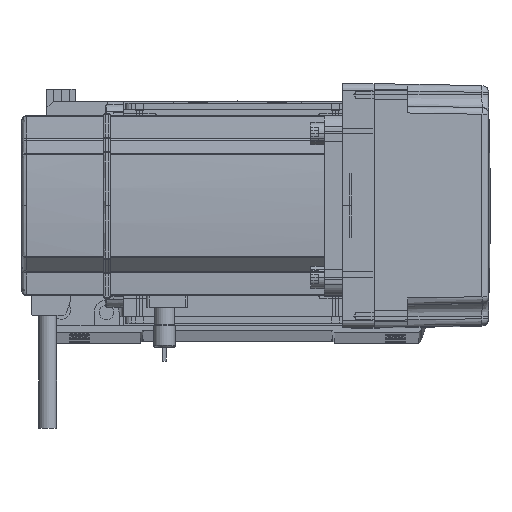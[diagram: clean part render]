
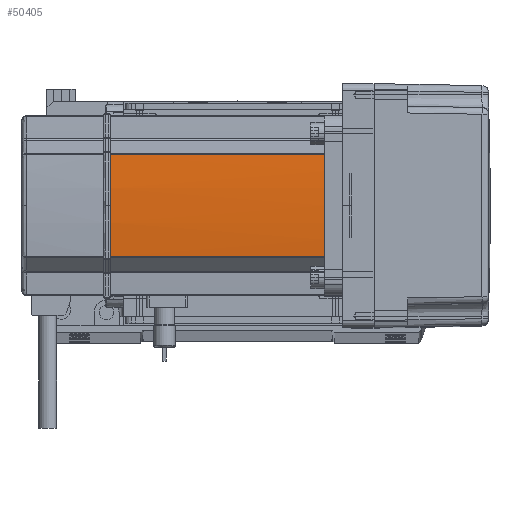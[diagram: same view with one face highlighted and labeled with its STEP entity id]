
A CAD part, top view. The second image highlights one B-rep face of the part: STEP entity #50405.
In plain terms, the highlighted cylindrical face has radius 270 mm (diameter 540 mm), a partial arc.
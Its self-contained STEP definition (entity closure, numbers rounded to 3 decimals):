
#1055 = FACE_OUTER_BOUND ( 'NONE', #5749, .T. ) ;
#1163 = EDGE_CURVE ( 'NONE', #44764, #25909, #24925, .T. ) ;
#2542 = DIRECTION ( 'NONE',  ( 0., 0., 1. ) ) ;
#4411 = ORIENTED_EDGE ( 'NONE', *, *, #1163, .T. ) ;
#4550 = VERTEX_POINT ( 'NONE', #43288 ) ;
#5749 = EDGE_LOOP ( 'NONE', ( #28074, #63546, #4411, #6094, #39472 ) ) ;
#6094 = ORIENTED_EDGE ( 'NONE', *, *, #14755, .F. ) ;
#7761 = VECTOR ( 'NONE', #2542, 1000. ) ;
#8083 = VERTEX_POINT ( 'NONE', #16774 ) ;
#8302 = DIRECTION ( 'NONE',  ( 0., 0., -1. ) ) ;
#8389 = DIRECTION ( 'NONE',  ( 0., 0., 1. ) ) ;
#14272 = EDGE_CURVE ( 'NONE', #8083, #4550, #34404, .T. ) ;
#14755 = EDGE_CURVE ( 'NONE', #8083, #25909, #24102, .T. ) ;
#16774 = CARTESIAN_POINT ( 'NONE',  ( -39.042, -22.724, 39. ) ) ;
#22564 = CARTESIAN_POINT ( 'NONE',  ( -39.042, 22.724, 0. ) ) ;
#23330 = EDGE_CURVE ( 'NONE', #50856, #44764, #38560, .T. ) ;
#24102 = CIRCLE ( 'NONE', #57572, 270. ) ;
#24925 = LINE ( 'NONE', #22564, #39058 ) ;
#25909 = VERTEX_POINT ( 'NONE', #62001 ) ;
#26326 = DIRECTION ( 'NONE',  ( 0., 0., -1. ) ) ;
#26441 = AXIS2_PLACEMENT_3D ( 'NONE', #43960, #8389, #33580 ) ;
#27790 = DIRECTION ( 'NONE',  ( 1., 0., 0. ) ) ;
#28074 = ORIENTED_EDGE ( 'NONE', *, *, #57599, .T. ) ;
#28228 = DIRECTION ( 'NONE',  ( 0., 0., -1. ) ) ;
#28442 = CARTESIAN_POINT ( 'NONE',  ( 230., 0., 134. ) ) ;
#28462 = AXIS2_PLACEMENT_3D ( 'NONE', #44207, #49882, #58961 ) ;
#33423 = AXIS2_PLACEMENT_3D ( 'NONE', #28442, #28228, #27790 ) ;
#33580 = DIRECTION ( 'NONE',  ( 1., 0., 0. ) ) ;
#34404 = LINE ( 'NONE', #37628, #7761 ) ;
#37628 = CARTESIAN_POINT ( 'NONE',  ( -39.042, -22.724, 0. ) ) ;
#38560 = CIRCLE ( 'NONE', #33423, 270. ) ;
#39058 = VECTOR ( 'NONE', #8302, 1000. ) ;
#39472 = ORIENTED_EDGE ( 'NONE', *, *, #14272, .T. ) ;
#41526 = DIRECTION ( 'NONE',  ( 1., 0., 0. ) ) ;
#43288 = CARTESIAN_POINT ( 'NONE',  ( -39.042, -22.724, 134. ) ) ;
#43960 = CARTESIAN_POINT ( 'NONE',  ( 230., 0., 0. ) ) ;
#44207 = CARTESIAN_POINT ( 'NONE',  ( 230., 0., 134. ) ) ;
#44764 = VERTEX_POINT ( 'NONE', #47283 ) ;
#47283 = CARTESIAN_POINT ( 'NONE',  ( -39.042, 22.724, 134. ) ) ;
#47845 = CARTESIAN_POINT ( 'NONE',  ( -40., 0., 134. ) ) ;
#49704 = CYLINDRICAL_SURFACE ( 'NONE', #26441, 270. ) ;
#49882 = DIRECTION ( 'NONE',  ( 0., 0., -1. ) ) ;
#50405 = ADVANCED_FACE ( 'NONE', ( #1055 ), #49704, .T. ) ;
#50856 = VERTEX_POINT ( 'NONE', #47845 ) ;
#51607 = CARTESIAN_POINT ( 'NONE',  ( 230., 0., 39. ) ) ;
#57572 = AXIS2_PLACEMENT_3D ( 'NONE', #51607, #26326, #41526 ) ;
#57599 = EDGE_CURVE ( 'NONE', #4550, #50856, #58283, .T. ) ;
#58283 = CIRCLE ( 'NONE', #28462, 270. ) ;
#58961 = DIRECTION ( 'NONE',  ( 1., 0., 0. ) ) ;
#62001 = CARTESIAN_POINT ( 'NONE',  ( -39.042, 22.724, 39. ) ) ;
#63546 = ORIENTED_EDGE ( 'NONE', *, *, #23330, .T. ) ;
